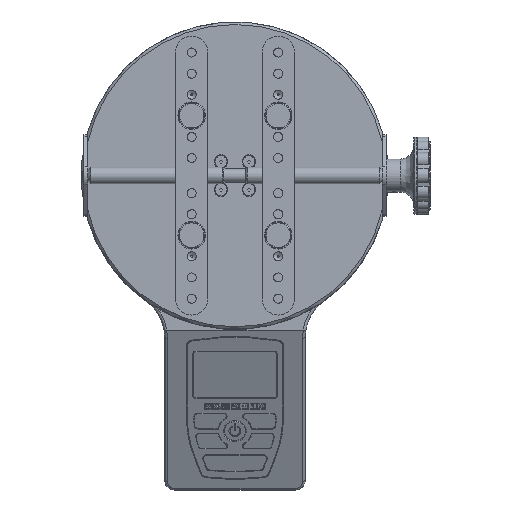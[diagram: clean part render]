
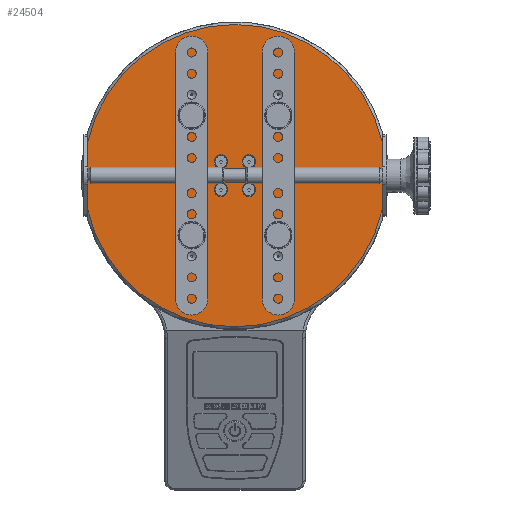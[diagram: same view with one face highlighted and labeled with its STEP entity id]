
A CAD part, top view. The second image highlights one B-rep face of the part: STEP entity #24504.
In plain terms, the highlighted planar face has unit normal (0, 0, 1).
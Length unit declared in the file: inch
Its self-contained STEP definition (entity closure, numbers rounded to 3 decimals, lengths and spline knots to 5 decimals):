
#14405=CARTESIAN_POINT('',(66.37891,5.83132,-18.10735));
#14406=VERTEX_POINT('',#14405);
#14422=CARTESIAN_POINT('',(66.37891,4.26786,-18.10735));
#14423=VERTEX_POINT('',#14422);
#14424=CARTESIAN_POINT('',(66.37891,4.26786,-18.10735));
#14425=DIRECTION('',(0.0,1.0,0.0));
#14426=VECTOR('',#14425,1.56346);
#14427=LINE('',#14424,#14426);
#14428=EDGE_CURVE('',#14423,#14406,#14427,.T.);
#15422=CARTESIAN_POINT('',(59.67891,5.83132,-18.10735));
#15423=VERTEX_POINT('',#15422);
#15437=CARTESIAN_POINT('',(63.02891,5.04959,-18.10735));
#15438=DIRECTION('',(0.0,0.0,-1.0));
#15439=DIRECTION('',(-1.0,0.0,0.0));
#15440=AXIS2_PLACEMENT_3D('',#15437,#15438,#15439);
#15441=CIRCLE('',#15440,3.44);
#15442=EDGE_CURVE('',#15423,#14406,#15441,.T.);
#15454=CARTESIAN_POINT('',(59.67891,4.26786,-18.10735));
#15455=VERTEX_POINT('',#15454);
#15456=CARTESIAN_POINT('',(63.02891,5.04959,-18.10735));
#15457=DIRECTION('',(0.0,0.0,-1.0));
#15458=DIRECTION('',(-1.0,0.0,0.0));
#15459=AXIS2_PLACEMENT_3D('',#15456,#15457,#15458);
#15460=CIRCLE('',#15459,3.44);
#15461=EDGE_CURVE('',#14423,#15455,#15460,.T.);
#15545=CARTESIAN_POINT('',(59.67891,4.26786,-18.10735));
#15546=DIRECTION('',(0.0,1.0,0.0));
#15547=VECTOR('',#15546,1.56346);
#15548=LINE('',#15545,#15547);
#15549=EDGE_CURVE('',#15455,#15423,#15548,.T.);
#24349=CARTESIAN_POINT('',(62.63375,4.59685,-18.10735));
#24350=VERTEX_POINT('',#24349);
#24351=CARTESIAN_POINT('',(62.71071,4.7314,-18.10735));
#24352=DIRECTION('',(0.0,0.0,-1.0));
#24353=DIRECTION('',(1.0,0.0,0.0));
#24354=AXIS2_PLACEMENT_3D('',#24351,#24352,#24353);
#24355=CIRCLE('',#24354,0.155);
#24356=EDGE_CURVE('',#24350,#24350,#24355,.T.);
#24366=CARTESIAN_POINT('',(63.48165,4.65443,-18.10735));
#24367=VERTEX_POINT('',#24366);
#24368=CARTESIAN_POINT('',(63.34711,4.7314,-18.10735));
#24369=DIRECTION('',(0.0,0.0,-1.0));
#24370=DIRECTION('',(1.0,0.0,0.0));
#24371=AXIS2_PLACEMENT_3D('',#24368,#24369,#24370);
#24372=CIRCLE('',#24371,0.155);
#24373=EDGE_CURVE('',#24367,#24367,#24372,.T.);
#24406=CARTESIAN_POINT('',(63.42407,5.50234,-18.10735));
#24407=VERTEX_POINT('',#24406);
#24408=CARTESIAN_POINT('',(63.34711,5.36779,-18.10735));
#24409=DIRECTION('',(0.0,0.0,-1.0));
#24410=DIRECTION('',(1.0,0.0,0.0));
#24411=AXIS2_PLACEMENT_3D('',#24408,#24409,#24410);
#24412=CIRCLE('',#24411,0.155);
#24413=EDGE_CURVE('',#24407,#24407,#24412,.T.);
#24446=CARTESIAN_POINT('',(62.57617,5.44475,-18.10735));
#24447=VERTEX_POINT('',#24446);
#24448=CARTESIAN_POINT('',(62.71071,5.36779,-18.10735));
#24449=DIRECTION('',(0.0,0.0,-1.0));
#24450=DIRECTION('',(1.0,0.0,0.0));
#24451=AXIS2_PLACEMENT_3D('',#24448,#24449,#24450);
#24452=CIRCLE('',#24451,0.155);
#24453=EDGE_CURVE('',#24447,#24447,#24452,.T.);
#24481=CARTESIAN_POINT('',(63.02891,5.04959,-18.10735));
#24482=DIRECTION('',(0.0,0.0,1.0));
#24483=DIRECTION('',(0.0,-1.0,0.0));
#24484=AXIS2_PLACEMENT_3D('',#24481,#24482,#24483);
#24485=PLANE('',#24484);
#24486=ORIENTED_EDGE('',*,*,#14428,.T.);
#24487=ORIENTED_EDGE('',*,*,#15442,.F.);
#24488=ORIENTED_EDGE('',*,*,#15549,.F.);
#24489=ORIENTED_EDGE('',*,*,#15461,.F.);
#24490=EDGE_LOOP('',(#24486,#24487,#24488,#24489));
#24491=FACE_OUTER_BOUND('',#24490,.T.);
#24492=ORIENTED_EDGE('',*,*,#24373,.T.);
#24493=EDGE_LOOP('',(#24492));
#24494=FACE_BOUND('',#24493,.T.);
#24495=ORIENTED_EDGE('',*,*,#24356,.T.);
#24496=EDGE_LOOP('',(#24495));
#24497=FACE_BOUND('',#24496,.T.);
#24498=ORIENTED_EDGE('',*,*,#24453,.T.);
#24499=EDGE_LOOP('',(#24498));
#24500=FACE_BOUND('',#24499,.T.);
#24501=ORIENTED_EDGE('',*,*,#24413,.T.);
#24502=EDGE_LOOP('',(#24501));
#24503=FACE_BOUND('',#24502,.T.);
#24504=ADVANCED_FACE('',(#24491,#24494,#24497,#24500,#24503),#24485,.T.);
